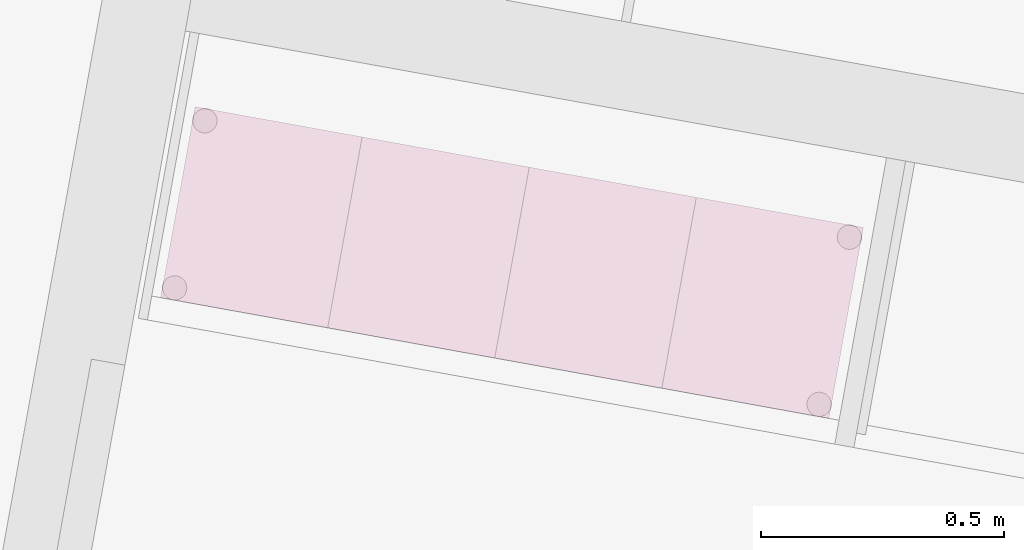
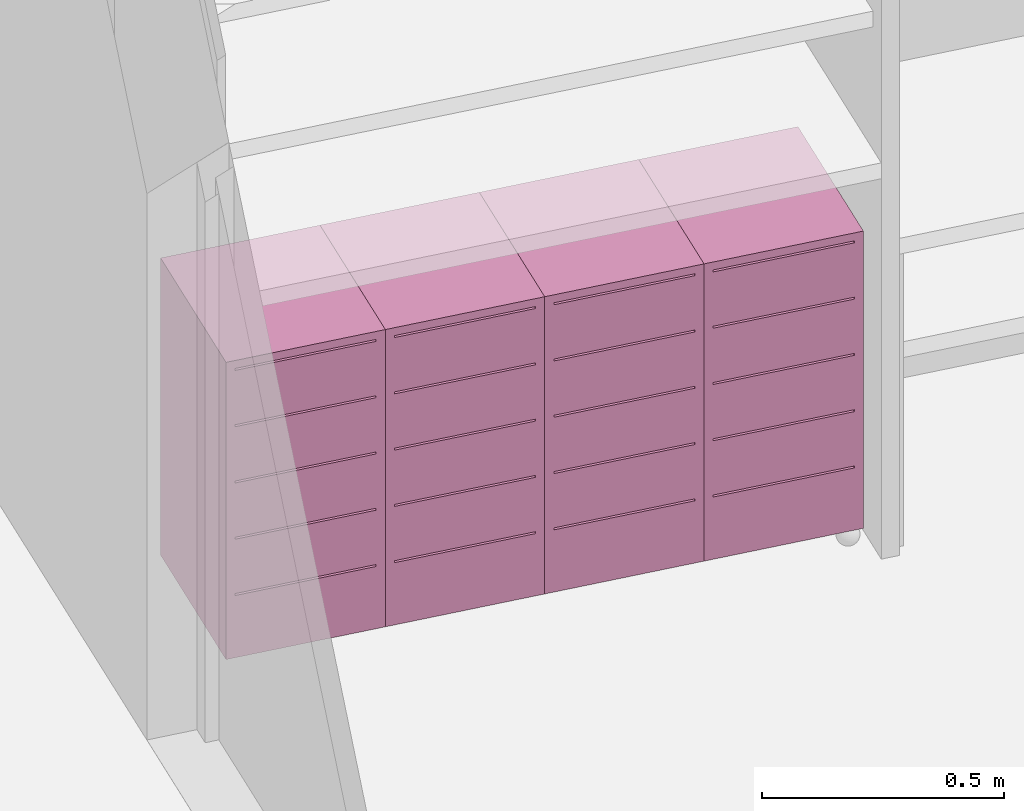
# One storey, part 14 of 79: 4 furnishings.
"""IFC2X3 building model written with IfcOpenShell, lengths in metres."""

from ifc_helpers import new_model, entity, si_unit, converted_unit, derived_unit, money_unit, direction, frame, origin_with_axes, place, context, subcontext, project, spatial, open_shell, faceted_brep, surface_model, source, transform, mapped, material, type_object, element, save


model = new_model("IFC2X3")

# Units and contexts
model_context = context("Model", 3, precision=1e-05, world=origin_with_axes(), true_north=direction((0.0, 1.0)))
body_context = subcontext(model_context, "Body", "Model", "MODEL_VIEW")
ifc_project = project(units=[si_unit("LENGTHUNIT", "METRE"), si_unit("AREAUNIT", "SQUARE_METRE"), si_unit("VOLUMEUNIT", "CUBIC_METRE"), converted_unit("PLANEANGLEUNIT", "DEGREE", entity("IfcPlaneAngleMeasure", 0.0174532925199), si_unit("PLANEANGLEUNIT", "RADIAN"), dimensions=[0, 0, 0, 0, 0, 0, 0]), money_unit("CHF"), converted_unit("TIMEUNIT", "Year", entity("IfcTimeMeasure", 31556926.0), si_unit("TIMEUNIT", "SECOND"), dimensions=[0, 0, 1, 0, 0, 0, 0]), si_unit("MASSUNIT", "GRAM", prefix="KILO"), si_unit("THERMODYNAMICTEMPERATUREUNIT", "DEGREE_CELSIUS"), si_unit("LUMINOUSINTENSITYUNIT", "LUMEN"), si_unit("ENERGYUNIT", "JOULE", prefix="MEGA"), derived_unit("THERMALCONDUCTANCEUNIT", [(si_unit("POWERUNIT", "WATT"), 1), (si_unit("LENGTHUNIT", "METRE"), -1), (si_unit("THERMODYNAMICTEMPERATUREUNIT", "KELVIN"), -1)]), derived_unit("SPECIFICHEATCAPACITYUNIT", [(si_unit("ENERGYUNIT", "JOULE"), 1), (si_unit("MASSUNIT", "GRAM", prefix="KILO"), -1), (si_unit("THERMODYNAMICTEMPERATUREUNIT", "KELVIN"), -1)]), derived_unit("MASSDENSITYUNIT", [(si_unit("MASSUNIT", "GRAM", prefix="KILO"), 1), (si_unit("VOLUMEUNIT", "CUBIC_METRE"), -1)])], contexts=[model_context])

# Site, building, storey
site_placement = place(None, frame((0.0, 0.0, 0.0), z_axis=(0.0, 0.0, 1.0), x_axis=(-0.177771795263, -0.984071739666, 0.0)))
site = spatial("IfcSite", under=ifc_project, at=site_placement, Name="Site", CompositionType="ELEMENT")
building_placement = place(site_placement, origin_with_axes())
building = spatial("IfcBuilding", under=site, at=building_placement, Name="Bâtiment", CompositionType="ELEMENT")
storey_placement = place(building_placement, origin_with_axes())
storey = spatial("IfcBuildingStorey", under=building, at=storey_placement, Name="RDC", CompositionType="ELEMENT", Elevation=0.0)

# Furnishings
ifc_material = material(Name="Matériau de construction IFC")
furnishing_element_type = type_object("IfcFurnishingElementType", Name="Caisson à roulettes 3 21")
shared_shape = source(origin_with_axes(), body_context, "Body", "SurfaceModel", [
    surface_model("IfcShellBasedSurfaceModel", [(0.33, 0.02, 0.0), (0.02, 0.02, 0.0), (0.02, 0.4, 0.0), (0.33, 0.4, 0.0)], [open_shell([[[0, 1, 2, 3]]])]),
    faceted_brep([(0.0, 0.4, 0.0), (0.35, 0.4, 0.0), (0.35, 0.0, 0.0), (0.0, 0.0, 0.0), (0.0, 0.4, 0.75), (0.35, 0.4, 0.75), (0.02, 0.4, 0.02), (0.33, 0.4, 0.02), (0.33, 0.4, 0.73), (0.02, 0.4, 0.73), (0.35, 0.0, 0.75), (0.0, 0.0, 0.75), (0.02, 0.0, 0.02), (0.02, 0.0, 0.73), (0.33, 0.0, 0.73), (0.33, 0.0, 0.02)], [[[0, 1, 2, 3]], [[0, 4, 5, 1], [6, 7, 8, 9]], [[1, 5, 10, 2]], [[3, 2, 10, 11], [12, 13, 14, 15]], [[4, 0, 3, 11]], [[5, 4, 11, 10]], [[7, 6, 12, 15]], [[8, 7, 15, 14]], [[9, 8, 14, 13]], [[6, 9, 13, 12]]]),
    faceted_brep([(0.33, 0.4, 0.02), (0.02, 0.4, 0.02), (0.02, 0.4, 0.73), (0.33, 0.4, 0.73), (0.33, 0.38, 0.02), (0.02, 0.38, 0.02), (0.02, 0.38, 0.73), (0.33, 0.38, 0.73)], [[[0, 1, 2, 3]], [[1, 0, 4, 5]], [[2, 1, 5, 6]], [[3, 2, 6, 7]], [[0, 3, 7, 4]], [[5, 4, 7, 6]]]),
    faceted_brep([(0.33, 0.0, 0.02), (0.02, 0.0, 0.02), (0.02, 0.38, 0.02), (0.33, 0.38, 0.02), (0.33, 0.0, 0.157), (0.02, 0.0, 0.157), (0.02, 0.38, 0.157), (0.33, 0.38, 0.157)], [[[0, 1, 2, 3]], [[1, 0, 4, 5]], [[2, 1, 5, 6]], [[3, 2, 6, 7]], [[0, 3, 7, 4]], [[5, 4, 7, 6]]]),
    faceted_brep([(0.33, 0.0, 0.162), (0.02, 0.0, 0.162), (0.02, 0.38, 0.162), (0.33, 0.38, 0.162), (0.33, 0.0, 0.299), (0.02, 0.0, 0.299), (0.02, 0.38, 0.299), (0.33, 0.38, 0.299)], [[[0, 1, 2, 3]], [[1, 0, 4, 5]], [[2, 1, 5, 6]], [[3, 2, 6, 7]], [[0, 3, 7, 4]], [[5, 4, 7, 6]]]),
    faceted_brep([(0.33, 0.0, 0.304), (0.02, 0.0, 0.304), (0.02, 0.38, 0.304), (0.33, 0.38, 0.304), (0.33, 0.0, 0.441), (0.02, 0.0, 0.441), (0.02, 0.38, 0.441), (0.33, 0.38, 0.441)], [[[0, 1, 2, 3]], [[1, 0, 4, 5]], [[2, 1, 5, 6]], [[3, 2, 6, 7]], [[0, 3, 7, 4]], [[5, 4, 7, 6]]]),
    faceted_brep([(0.33, 0.0, 0.446), (0.02, 0.0, 0.446), (0.02, 0.38, 0.446), (0.33, 0.38, 0.446), (0.33, 0.0, 0.583), (0.02, 0.0, 0.583), (0.02, 0.38, 0.583), (0.33, 0.38, 0.583)], [[[0, 1, 2, 3]], [[1, 0, 4, 5]], [[2, 1, 5, 6]], [[3, 2, 6, 7]], [[0, 3, 7, 4]], [[5, 4, 7, 6]]]),
    faceted_brep([(0.33, 0.0, 0.588), (0.02, 0.0, 0.588), (0.02, 0.38, 0.588), (0.33, 0.38, 0.588), (0.33, 0.0, 0.725), (0.02, 0.0, 0.725), (0.02, 0.38, 0.725), (0.33, 0.38, 0.725)], [[[0, 1, 2, 3]], [[1, 0, 4, 5]], [[2, 1, 5, 6]], [[3, 2, 6, 7]], [[0, 3, 7, 4]], [[5, 4, 7, 6]]]),
])
for number, where, z_axis, x_axis in (
    (1, (156.2498602, -156.049529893, 0.05), (0.0, 0.0, 1.0), (0.0, 1.0, 0.0)),
    (2, (156.2498602, -155.699529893, 0.05), (0.0, 0.0, 1.0), (0.0, 1.0, 0.0)),
    (3, (156.2498602, -155.349529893, 0.05), (0.0, 0.0, 1.0), (0.0, 1.0, 0.0)),
    (4, (156.2498602, -156.399529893, 0.05), (0.0, 0.0, 1.0), (0.0, 1.0, 0.0)),
):
    element("IfcFurnishingElement", number, at=place(storey_placement, frame(where, z_axis=z_axis, x_axis=x_axis)), inside=storey, type_object=furnishing_element_type, material=ifc_material, Name="tiroirs-classe", ObjectType="SYSTEM_FURNITURE", context=body_context, shape_type="MappedRepresentation", body=[
        mapped(shared_shape, transform((0.0, 0.0, 0.0))),
    ])

save(model, "model.ifc")
